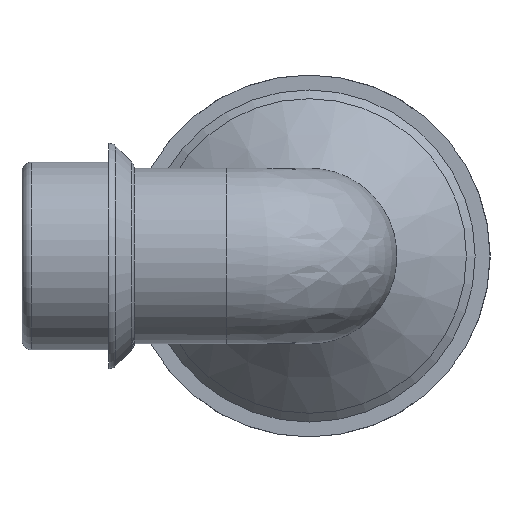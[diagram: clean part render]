
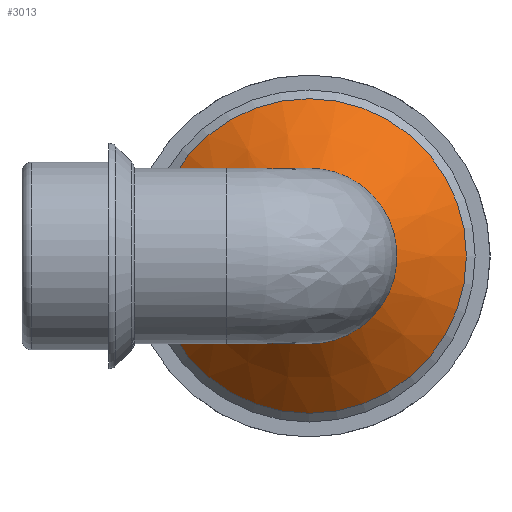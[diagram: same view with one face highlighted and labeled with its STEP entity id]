
A CAD part, left-side view. The second image highlights one B-rep face of the part: STEP entity #3013.
In plain terms, the highlighted conical face has half-angle 45 degrees and reference radius 31.174 mm.
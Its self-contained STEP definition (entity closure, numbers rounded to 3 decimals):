
#508=CONICAL_SURFACE('',#3232,31.174,45.);
#539=FACE_BOUND('',#872,.T.);
#561=B_SPLINE_CURVE_WITH_KNOTS('',3,(#4584,#4585,#4586,#4587,#4588,#4589,
#4590,#4591,#4592,#4593),.UNSPECIFIED.,.F.,.F.,(4,2,2,2,4),(8.537,
8.886,9.295,9.703,10.052),
 .UNSPECIFIED.);
#656=FACE_OUTER_BOUND('',#871,.T.);
#871=EDGE_LOOP('',(#2029,#2030));
#872=EDGE_LOOP('',(#2031));
#1106=CIRCLE('',#3231,22.348);
#1107=CIRCLE('',#3233,40.);
#1282=VERTEX_POINT('',#4582);
#1283=VERTEX_POINT('',#4583);
#1287=VERTEX_POINT('',#4632);
#1558=EDGE_CURVE('',#1282,#1283,#561,.T.);
#1563=EDGE_CURVE('',#1282,#1283,#1106,.T.);
#1564=EDGE_CURVE('',#1287,#1287,#1107,.T.);
#2029=ORIENTED_EDGE('',*,*,#1558,.F.);
#2030=ORIENTED_EDGE('',*,*,#1563,.T.);
#2031=ORIENTED_EDGE('',*,*,#1564,.F.);
#3013=ADVANCED_FACE('',(#656,#539),#508,.T.);
#3231=AXIS2_PLACEMENT_3D('',#4630,#3632,#3633);
#3232=AXIS2_PLACEMENT_3D('',#4631,#3634,#3635);
#3233=AXIS2_PLACEMENT_3D('',#4633,#3636,#3637);
#3632=DIRECTION('center_axis',(1.,0.,0.));
#3633=DIRECTION('ref_axis',(0.,0.,-1.));
#3634=DIRECTION('center_axis',(1.,0.,0.));
#3635=DIRECTION('ref_axis',(0.,1.,0.));
#3636=DIRECTION('center_axis',(1.,0.,0.));
#3637=DIRECTION('ref_axis',(0.,0.,-1.));
#4582=CARTESIAN_POINT('',(21.12,21.12,7.306));
#4583=CARTESIAN_POINT('',(21.12,21.12,-7.306));
#4584=CARTESIAN_POINT('Ctrl Pts',(21.12,21.12,7.306));
#4585=CARTESIAN_POINT('Ctrl Pts',(21.443,21.785,6.372));
#4586=CARTESIAN_POINT('Ctrl Pts',(21.743,22.384,5.295));
#4587=CARTESIAN_POINT('Ctrl Pts',(22.213,23.315,2.806));
#4588=CARTESIAN_POINT('Ctrl Pts',(22.348,23.576,1.362));
#4589=CARTESIAN_POINT('Ctrl Pts',(22.348,23.576,-1.362));
#4590=CARTESIAN_POINT('Ctrl Pts',(22.213,23.315,-2.806));
#4591=CARTESIAN_POINT('Ctrl Pts',(21.743,22.384,-5.295));
#4592=CARTESIAN_POINT('Ctrl Pts',(21.443,21.785,-6.372));
#4593=CARTESIAN_POINT('Ctrl Pts',(21.12,21.12,-7.306));
#4630=CARTESIAN_POINT('Origin',(21.12,0.,0.));
#4631=CARTESIAN_POINT('Origin',(29.946,0.,0.));
#4632=CARTESIAN_POINT('',(38.772,40.,0.));
#4633=CARTESIAN_POINT('Origin',(38.772,0.,0.));
